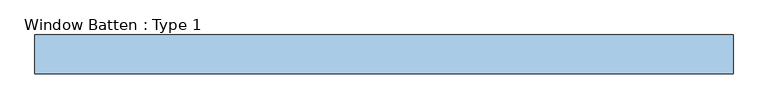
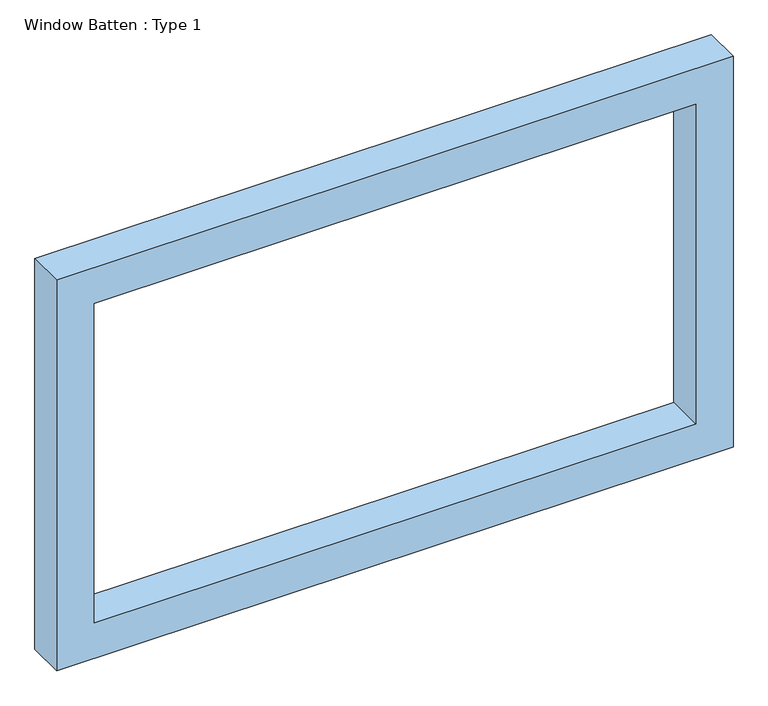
"""IFC4 building model written with IfcOpenShell, lengths in millimetres: window geometry, Window Batten : Type 1."""

from ifc_helpers import new_model, si_unit, frame, origin, place, context, project, spatial, polyline, outline, extrude, source, transform, mapped, element, save


def window_batten_type_1_78a66526(model_context):
    return source(origin(), model_context, "Body", "SweptSolid", [
        extrude(outline(polyline([(2708.8484214, -1676.1752304), (508.2400632, -1676.1752304), (508.2400632, 1926.1752304), (2708.8484214, 1926.1752304), (2708.8484214, -1676.1752304)]), holes=[polyline([(2508.8484214, -1476.1752304), (2508.8484214, 1726.1752304), (708.2400632, 1726.1752304), (708.2400632, -1476.1752304), (2508.8484214, -1476.1752304)])]), frame((0.0, -310.0, 0.0), z_axis=(0.0, 1.0, 0.0), x_axis=(0.0, 0.0, 1.0)), (0.0, 0.0, 1.0), 200.0),
    ])


if __name__ == "__main__":
    model = new_model("IFC4")
    model_context = context("Model", 3, world=origin())
    ifc_project = project(units=[si_unit("LENGTHUNIT", "METRE", prefix="MILLI")], contexts=[model_context])
    site = spatial("IfcSite", under=ifc_project)
    building = spatial("IfcBuilding", under=site)
    placement = place(None, origin())
    window_batten_type_1_shape = window_batten_type_1_78a66526(model_context)
    element("IfcWindow", 1, ObjectType="Window Batten : Type 1", at=placement, inside=building, context=model_context, shape_type="MappedRepresentation", body=[
        mapped(window_batten_type_1_shape, transform((0.0, 0.0, 0.0), x_axis=(1.0, 0.0, 0.0), y_axis=(0.0, 1.0, 0.0), z_axis=(0.0, 0.0, 1.0))),
    ])
    save(model, "model.ifc")
